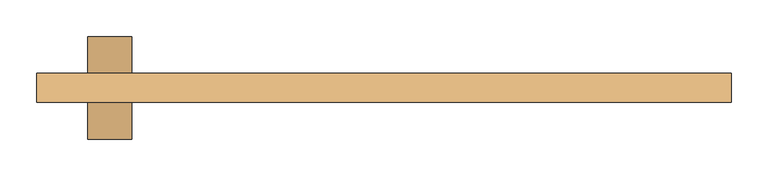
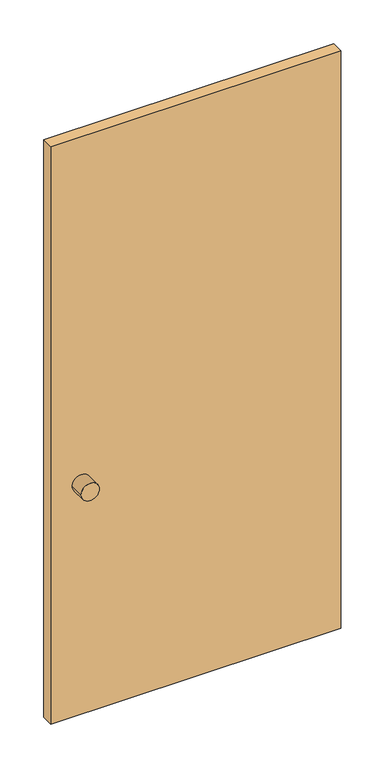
"""IFC4 building model written with IfcOpenShell, lengths in millimetres: door geometry, 営_片開き扉 : LD3 950*2000."""

from ifc_helpers import new_model, si_unit, point, frame, frame_2d, origin, origin_with_axes, place, context, project, spatial, polyline, circle_curve, trimmed, segment, composite_curve, outline, extrude, source, transform, mapped, element, save


def door_7e7a0efd(model_context):
    return source(origin(), model_context, "Body", "SweptSolid", [
        extrude(outline(composite_curve([segment(trimmed(circle_curve(frame_2d((800.0, -375.0)), 30.0), [point((800.0, -345.0))], [point((800.0, -405.0))], False, "CARTESIAN"), True, "CONTINUOUS"), segment(trimmed(circle_curve(frame_2d((800.0, -375.0)), 30.0), [point((800.0, -405.0))], [point((800.0, -345.0))], False, "CARTESIAN"), True, "CONTINUOUS")], self_intersect=False)), frame((0.0, -35.0, 0.0), z_axis=(0.0, 1.0, 0.0), x_axis=(0.0, 0.0, 1.0)), (0.0, 0.0, 1.0), 50.0),
        extrude(outline(composite_curve([segment(trimmed(circle_curve(frame_2d((800.0, -375.0)), 30.0), [point((800.0, -345.0))], [point((800.0, -405.0))], False, "CARTESIAN"), True, "CONTINUOUS"), segment(trimmed(circle_curve(frame_2d((800.0, -375.0)), 30.0), [point((800.0, -405.0))], [point((800.0, -345.0))], False, "CARTESIAN"), True, "CONTINUOUS")], self_intersect=False)), frame((0.0, 55.0, 0.0), z_axis=(0.0, 1.0, 0.0), x_axis=(0.0, 0.0, 1.0)), (0.0, 0.0, 1.0), 50.0),
        extrude(outline(polyline([(-475.0, 15.0), (-475.0, 55.0), (475.0, 55.0), (475.0, 15.0), (-475.0, 15.0)])), origin_with_axes(), (0.0, 0.0, 1.0), 2000.0),
    ])


if __name__ == "__main__":
    model = new_model("IFC4")
    model_context = context("Model", 3, world=origin())
    ifc_project = project(units=[si_unit("LENGTHUNIT", "METRE", prefix="MILLI")], contexts=[model_context])
    site = spatial("IfcSite", under=ifc_project)
    building = spatial("IfcBuilding", under=site)
    placement = place(None, origin())
    door_shape = door_7e7a0efd(model_context)
    element("IfcDoor", 1, ObjectType="営_片開き扉 : LD3 950*2000", at=placement, inside=building, context=model_context, shape_type="MappedRepresentation", body=[
        mapped(door_shape, transform((0.0, 0.0, 0.0), x_axis=(1.0, 0.0, 0.0), y_axis=(0.0, 1.0, 0.0), z_axis=(0.0, 0.0, 1.0))),
    ])
    save(model, "model.ifc")
